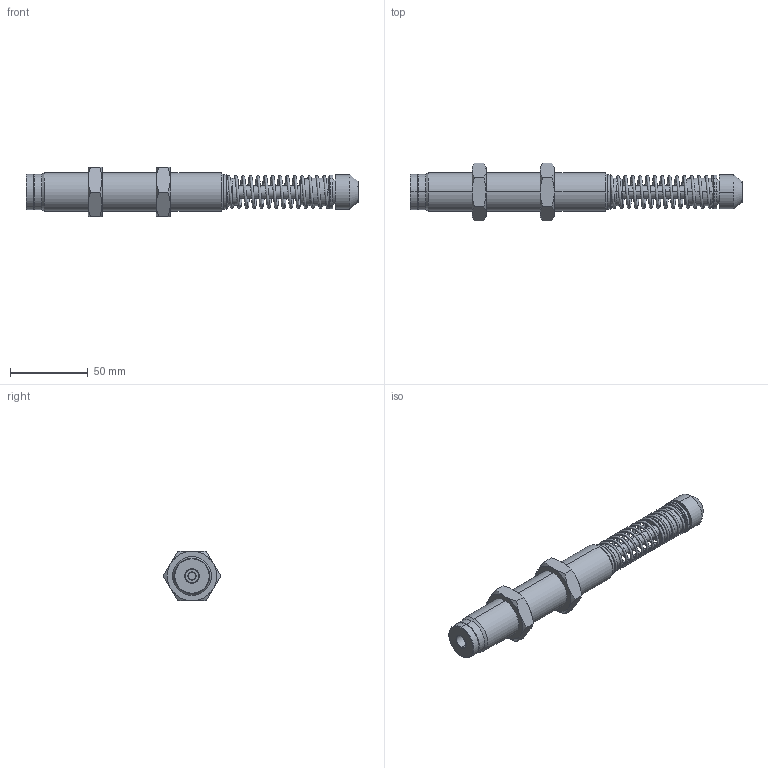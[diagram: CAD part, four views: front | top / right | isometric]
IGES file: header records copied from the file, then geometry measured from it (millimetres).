
Start section: SolidWorks IGES file using analytic representation for surfaces
Global section: file name: D:\IGS跡宒\AC2540.IGS,1; native system: 5HSolidWorks 2013; preprocessor: SolidWorks 2013; author: Administrator; date: 160406.152337; units: inch
Bounding box: 214 x 36.95 x 32 mm (x, y, z)
Surface area: 25306.9 mm2 (no closed solid volume)
Topology: 0 solids, 0 shells, 114 faces, 1763 edges, 1763 vertices
Faces by surface type: revolution 82, bspline 32
